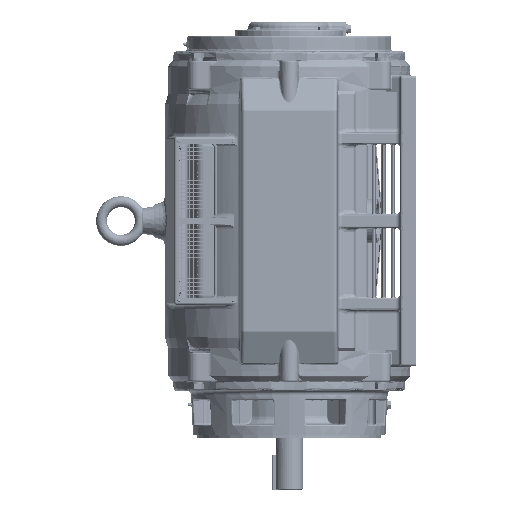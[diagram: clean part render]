
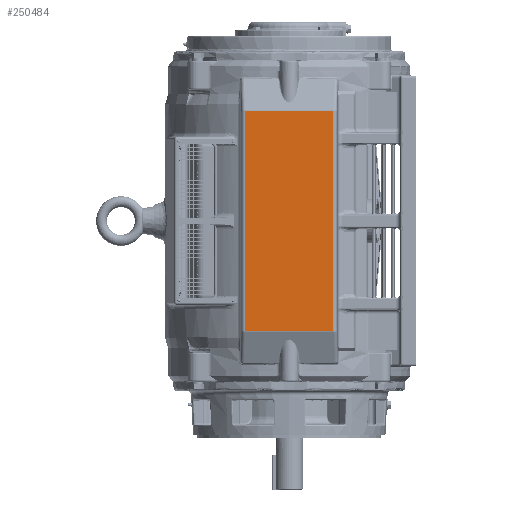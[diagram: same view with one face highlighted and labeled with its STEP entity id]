
A CAD part, left-side view. The second image highlights one B-rep face of the part: STEP entity #250484.
In plain terms, the highlighted planar face has unit normal (-1, 0, 0).
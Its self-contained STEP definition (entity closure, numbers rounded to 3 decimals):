
#6686 = VERTEX_POINT ( 'NONE', #54264 ) ;
#8228 = PLANE ( 'NONE',  #109522 ) ;
#25558 = DIRECTION ( 'NONE',  ( 0., 1., 0. ) ) ;
#27065 = VECTOR ( 'NONE', #335253, 1000. ) ;
#47773 = VERTEX_POINT ( 'NONE', #403874 ) ;
#48658 = FACE_OUTER_BOUND ( 'NONE', #224638, .T. ) ;
#54264 = CARTESIAN_POINT ( 'NONE',  ( -300., 97.487, -242.28 ) ) ;
#63122 = LINE ( 'NONE', #547304, #255584 ) ;
#67790 = EDGE_CURVE ( 'NONE', #319812, #388839, #63122, .T. ) ;
#92844 = EDGE_CURVE ( 'NONE', #6686, #47773, #551576, .T. ) ;
#96467 = DIRECTION ( 'NONE',  ( 0., 0., -1. ) ) ;
#99925 = VECTOR ( 'NONE', #372645, 1000. ) ;
#109522 = AXIS2_PLACEMENT_3D ( 'NONE', #143727, #495353, #235885 ) ;
#143727 = CARTESIAN_POINT ( 'NONE',  ( -300., 105., 244. ) ) ;
#162201 = CARTESIAN_POINT ( 'NONE',  ( -300., -97.487, 242.28 ) ) ;
#179575 = ORIENTED_EDGE ( 'NONE', *, *, #563143, .T. ) ;
#224638 = EDGE_LOOP ( 'NONE', ( #314011, #391995, #346420, #179575 ) ) ;
#235885 = DIRECTION ( 'NONE',  ( 0., 0., -1. ) ) ;
#237036 = CARTESIAN_POINT ( 'NONE',  ( -300., 97.487, 242.28 ) ) ;
#250484 = ADVANCED_FACE ( 'NONE', ( #48658 ), #8228, .F. ) ;
#255584 = VECTOR ( 'NONE', #25558, 1000. ) ;
#291869 = LINE ( 'NONE', #162201, #99925 ) ;
#314011 = ORIENTED_EDGE ( 'NONE', *, *, #67790, .T. ) ;
#319812 = VERTEX_POINT ( 'NONE', #535468 ) ;
#335253 = DIRECTION ( 'NONE',  ( 0., -1., 0. ) ) ;
#343795 = CARTESIAN_POINT ( 'NONE',  ( -300., 105., -242.28 ) ) ;
#346420 = ORIENTED_EDGE ( 'NONE', *, *, #92844, .T. ) ;
#358699 = LINE ( 'NONE', #491308, #545123 ) ;
#372645 = DIRECTION ( 'NONE',  ( 0., 0., 1. ) ) ;
#388839 = VERTEX_POINT ( 'NONE', #237036 ) ;
#391995 = ORIENTED_EDGE ( 'NONE', *, *, #567859, .T. ) ;
#403874 = CARTESIAN_POINT ( 'NONE',  ( -300., -97.487, -242.28 ) ) ;
#491308 = CARTESIAN_POINT ( 'NONE',  ( -300., 97.487, 244. ) ) ;
#495353 = DIRECTION ( 'NONE',  ( 1., 0., 0. ) ) ;
#535468 = CARTESIAN_POINT ( 'NONE',  ( -300., -97.487, 242.28 ) ) ;
#545123 = VECTOR ( 'NONE', #96467, 1000. ) ;
#547304 = CARTESIAN_POINT ( 'NONE',  ( -300., 105., 242.28 ) ) ;
#551576 = LINE ( 'NONE', #343795, #27065 ) ;
#563143 = EDGE_CURVE ( 'NONE', #47773, #319812, #291869, .T. ) ;
#567859 = EDGE_CURVE ( 'NONE', #388839, #6686, #358699, .T. ) ;
